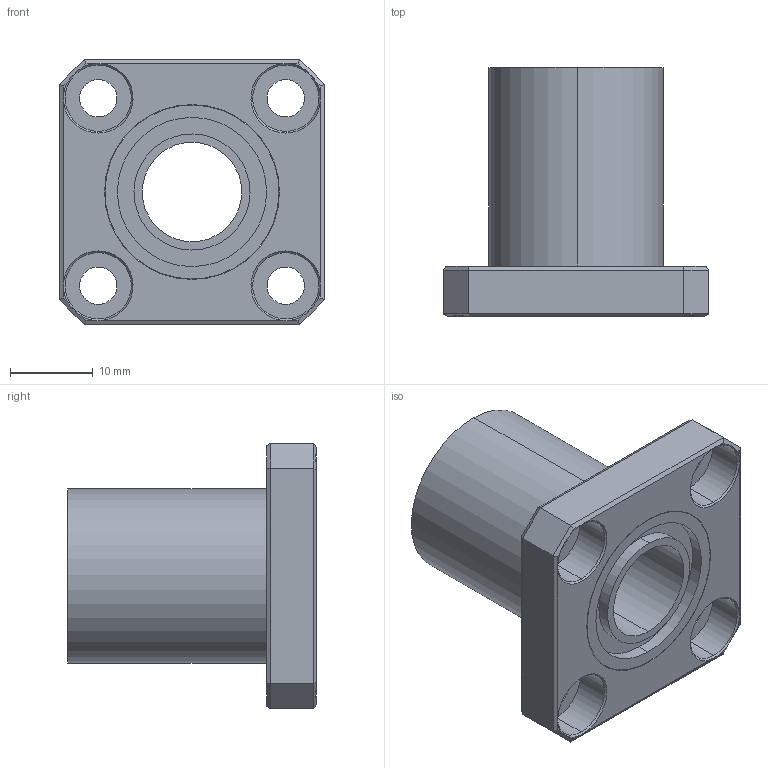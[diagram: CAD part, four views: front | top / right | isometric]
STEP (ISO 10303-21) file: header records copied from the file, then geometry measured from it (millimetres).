
FILE_DESCRIPTION (( 'STEP AP214' ), '1' );
FILE_NAME ('LMK12UU.STEP', '2020-06-29T11:06:46', ( '' ), ( '' ), 'SwSTEP 2.0', 'SolidWorks 2018', '' );
FILE_SCHEMA (( 'AUTOMOTIVE_DESIGN' ));
Length unit declared in the file: millimetre
Products named in the file (3): LMK12UU Part2; LMK12UU Part1; LMK12UU
Assembly tree (2 placements, depth 2):
  LMK12UU
    LMK12UU Part1
    LMK12UU Part2
Bounding box: 32 x 30 x 32 mm (x, y, z)
Volume: 9596.2 mm3; surface area: 6545.9 mm2
Topology: 2 solids, 2 shells, 92 faces, 218 edges, 134 vertices
Faces by surface type: plane 44, cylinder 30, cone 18
Entity records: 2968 total; most frequent: CARTESIAN_POINT 497, DIRECTION 482, ORIENTED_EDGE 436, EDGE_CURVE 218, AXIS2_PLACEMENT_3D 183, VERTEX_POINT 134, LINE 116, VECTOR 116
